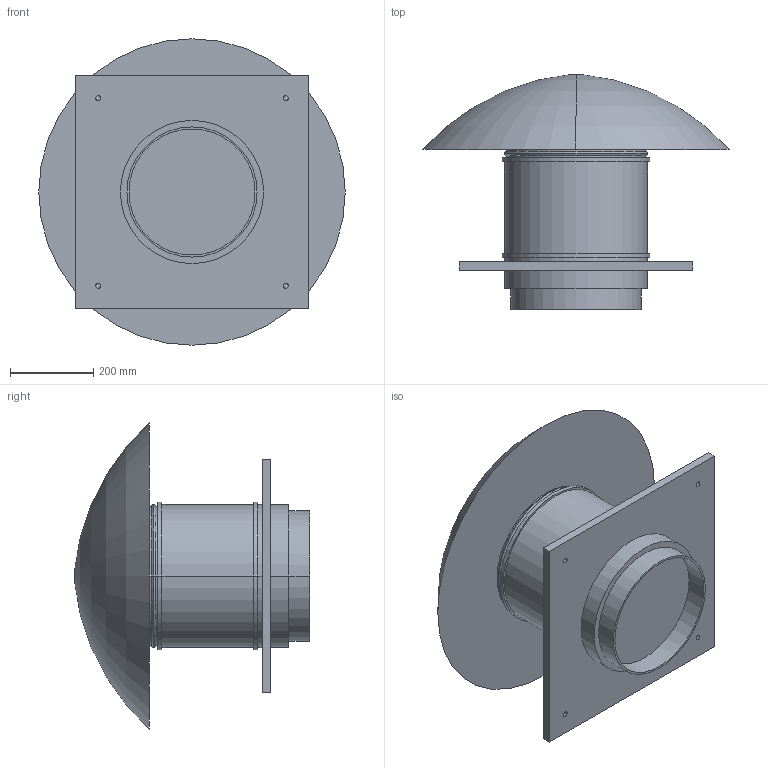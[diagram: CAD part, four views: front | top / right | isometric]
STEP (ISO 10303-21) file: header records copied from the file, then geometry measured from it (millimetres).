
FILE_DESCRIPTION(('STEP AP203'),'1');
FILE_NAME('5220003800.stp','2022-05-10T09:11:46',('TraceParts'),('TraceParts S.A.'),'Spatial InterOp 3D',' ',' ');
FILE_SCHEMA(('CONFIG_CONTROL_DESIGN'));
Length unit declared in the file: millimetre
Products named in the file (1): 1
Bounding box: 735 x 564 x 735 mm (x, y, z)
Volume: 74208872 mm3; surface area: 1902340.1 mm2
Topology: 1 solids, 1 shells, 47 faces, 102 edges, 66 vertices
Faces by surface type: cylinder 26, plane 15, torus 6
Entity records: 1372 total; most frequent: DIRECTION 262, CARTESIAN_POINT 216, ORIENTED_EDGE 204, AXIS2_PLACEMENT_3D 112, EDGE_CURVE 102, VERTEX_POINT 66, EDGE_LOOP 64, CIRCLE 64
